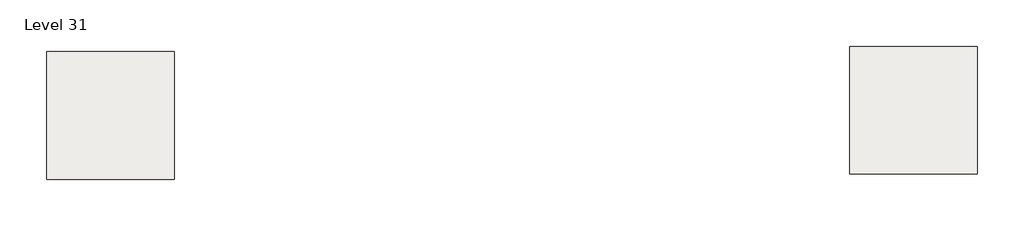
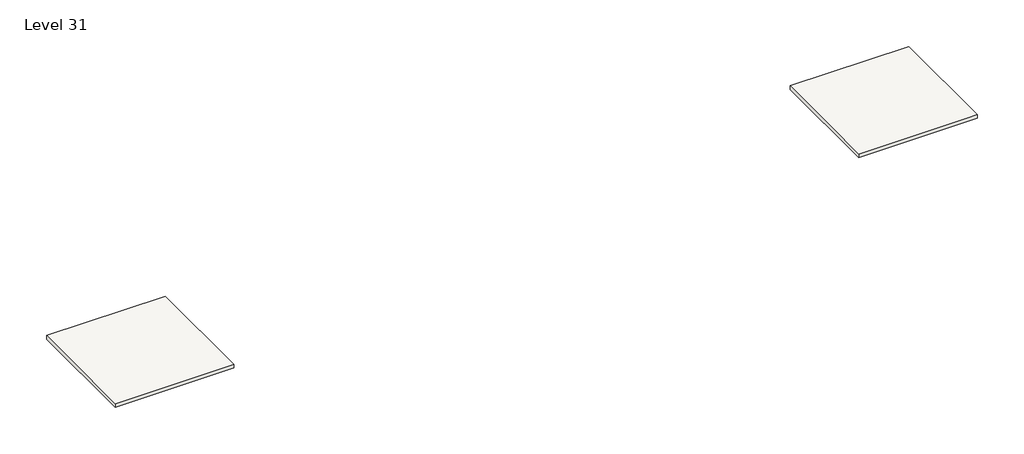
# One storey: 2 slabs.
"""IFC4 building model written with IfcOpenShell, lengths in millimetres."""

from ifc_helpers import new_model, si_unit, frame, origin, place, context, project, spatial, polyline, outline, extrude, element, save

model = new_model("IFC4")

# Units and contexts
model_context = context("Model", 3, world=origin())
ifc_project = project(units=[si_unit("LENGTHUNIT", "METRE", prefix="MILLI")], contexts=[model_context])

# Site, building, storey
site = spatial("IfcSite", under=ifc_project)
building = spatial("IfcBuilding", under=site)
storey = spatial("IfcBuildingStorey", under=building, Name="Level 31", Elevation=91440.0)

# Slabs
placement = place(None, origin())
element("IfcSlab", 1, ObjectType="Generic - 12\"", at=placement, inside=storey, context=model_context, shape_type="SweptSolid", body=[
    extrude(outline(polyline([(-8641.8488996, 6449.9495511), (-8641.8488996, -2694.0504489), (-17785.8488996, -2694.0504489), (-17785.8488996, 6449.9495511), (-8641.8488996, 6449.9495511)])), frame((0.0, 0.0, 91135.2), z_axis=(0.0, 0.0, 1.0), x_axis=(1.0, 0.0, 0.0)), (0.0, 0.0, 1.0), 304.8),
])
element("IfcSlab", 2, ObjectType="Generic - 12\"", at=placement, inside=storey, context=model_context, shape_type="SweptSolid", body=[
    extrude(outline(polyline([(48791.8576677, 6827.0904402), (48791.8576677, -2316.9095598), (39647.8576677, -2316.9095598), (39647.8576677, 6827.0904402), (48791.8576677, 6827.0904402)])), frame((0.0, 0.0, 91135.2), z_axis=(0.0, 0.0, 1.0), x_axis=(1.0, 0.0, 0.0)), (0.0, 0.0, 1.0), 304.8),
])

save(model, "model.ifc")
